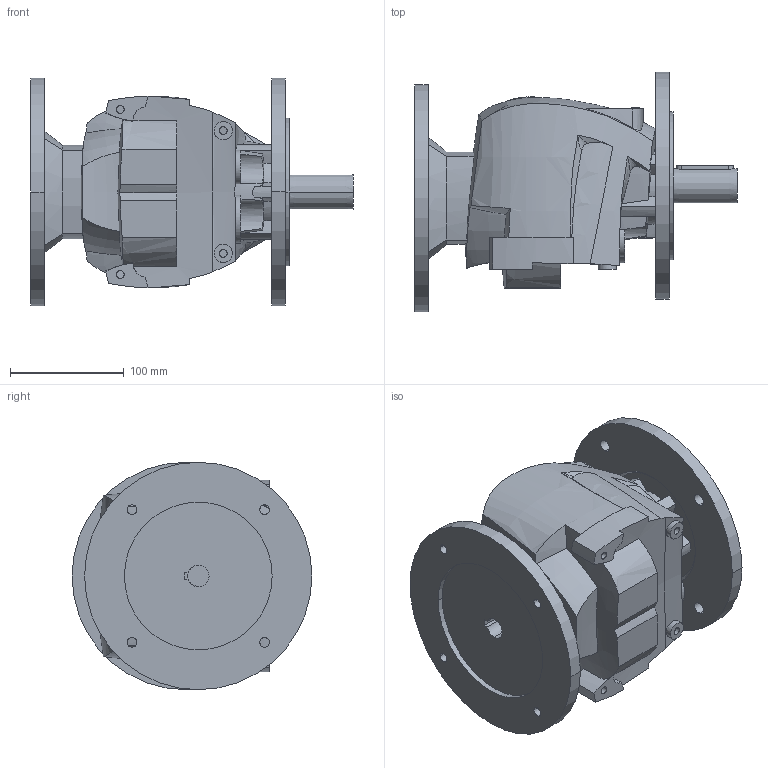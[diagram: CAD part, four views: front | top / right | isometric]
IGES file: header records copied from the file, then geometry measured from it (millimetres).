
Start section:  PTC IGES file: r25_200_pam80_d2.igs
Global section: file name: r25_200_pam80_d2.igs; native system: Pro/ENGINEER by Parametric Technology Corporation; preprocessor: 2008230; author: Luca; organization: Unknown; date: 20131218.004115; units: millimetre
Bounding box: 284 x 211 x 200 mm (x, y, z)
Volume: 3852725.5 mm3; surface area: 276196.9 mm2
Topology: 1 solids, 7 shells, 408 faces, 1083 edges, 721 vertices
Faces by surface type: bspline 250, revolution 158
